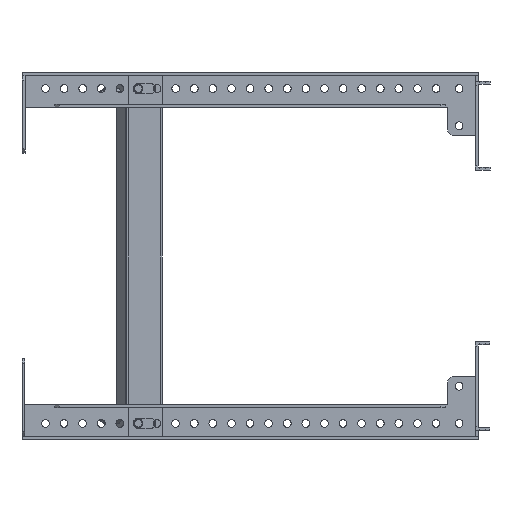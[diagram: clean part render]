
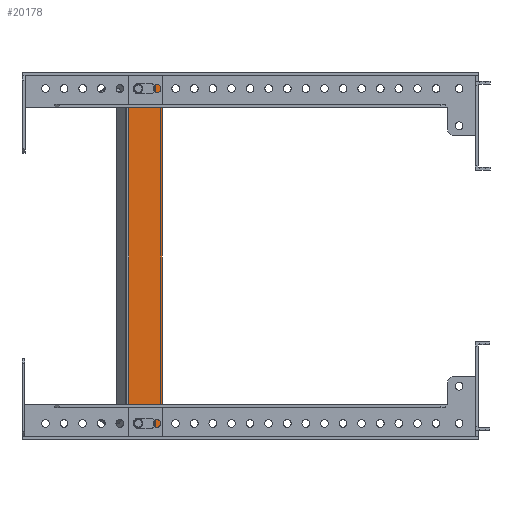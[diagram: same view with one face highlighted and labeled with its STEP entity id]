
A CAD part, front view. The second image highlights one B-rep face of the part: STEP entity #20178.
In plain terms, the highlighted planar face has unit normal (0, -1, 0).
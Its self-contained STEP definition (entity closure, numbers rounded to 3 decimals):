
#55 = VECTOR ( 'NONE', #7152, 1000. ) ;
#489 = PLANE ( 'NONE',  #1280 ) ;
#521 = AXIS2_PLACEMENT_3D ( 'NONE', #22598, #24838, #16937 ) ;
#664 = EDGE_CURVE ( 'NONE', #10660, #7614, #8551, .T. ) ;
#777 = DIRECTION ( 'NONE',  ( 0., 1., 0. ) ) ;
#1086 = EDGE_LOOP ( 'NONE', ( #4444, #16172, #6399, #8748 ) ) ;
#1276 = DIRECTION ( 'NONE',  ( -1., 0., 0. ) ) ;
#1280 = AXIS2_PLACEMENT_3D ( 'NONE', #20697, #2205, #16485 ) ;
#1423 = CARTESIAN_POINT ( 'NONE',  ( 1150.146, -254., -97.5 ) ) ;
#1547 = VECTOR ( 'NONE', #23556, 1000. ) ;
#1991 = VERTEX_POINT ( 'NONE', #14176 ) ;
#2205 = DIRECTION ( 'NONE',  ( 0., 1., 0. ) ) ;
#2324 = AXIS2_PLACEMENT_3D ( 'NONE', #2755, #9111, #10834 ) ;
#2607 = CARTESIAN_POINT ( 'NONE',  ( 1112.302, -254., -84. ) ) ;
#2615 = CARTESIAN_POINT ( 'NONE',  ( 1120.302, -254., -91. ) ) ;
#2673 = ORIENTED_EDGE ( 'NONE', *, *, #7931, .F. ) ;
#2719 = ORIENTED_EDGE ( 'NONE', *, *, #12470, .F. ) ;
#2755 = CARTESIAN_POINT ( 'NONE',  ( 1112.302, -254., -87.5 ) ) ;
#3251 = AXIS2_PLACEMENT_3D ( 'NONE', #7068, #25270, #14858 ) ;
#3827 = CARTESIAN_POINT ( 'NONE',  ( 1105.802, -254., -97.5 ) ) ;
#3917 = VERTEX_POINT ( 'NONE', #9894 ) ;
#4010 = ORIENTED_EDGE ( 'NONE', *, *, #23857, .F. ) ;
#4091 = CIRCLE ( 'NONE', #23485, 3.5 ) ;
#4324 = FACE_BOUND ( 'NONE', #19379, .T. ) ;
#4411 = EDGE_CURVE ( 'NONE', #7143, #7247, #14723, .T. ) ;
#4444 = ORIENTED_EDGE ( 'NONE', *, *, #21073, .F. ) ;
#4454 = DIRECTION ( 'NONE',  ( -1., 0., 0. ) ) ;
#4591 = FACE_BOUND ( 'NONE', #23578, .T. ) ;
#4787 = VERTEX_POINT ( 'NONE', #24359 ) ;
#4815 = ORIENTED_EDGE ( 'NONE', *, *, #25824, .T. ) ;
#5189 = CARTESIAN_POINT ( 'NONE',  ( 1112.302, -254., 141. ) ) ;
#5450 = LINE ( 'NONE', #11400, #10192 ) ;
#5461 = LINE ( 'NONE', #17359, #21093 ) ;
#6399 = ORIENTED_EDGE ( 'NONE', *, *, #13966, .F. ) ;
#7068 = CARTESIAN_POINT ( 'NONE',  ( 1112.302, -254., 137.5 ) ) ;
#7143 = VERTEX_POINT ( 'NONE', #13472 ) ;
#7152 = DIRECTION ( 'NONE',  ( 0., 0., 1. ) ) ;
#7247 = VERTEX_POINT ( 'NONE', #23614 ) ;
#7614 = VERTEX_POINT ( 'NONE', #18050 ) ;
#7931 = EDGE_CURVE ( 'NONE', #3917, #24956, #23165, .T. ) ;
#8551 = CIRCLE ( 'NONE', #521, 3.5 ) ;
#8666 = CARTESIAN_POINT ( 'NONE',  ( 1128.304, -254., 147.5 ) ) ;
#8680 = VECTOR ( 'NONE', #17086, 1000. ) ;
#8748 = ORIENTED_EDGE ( 'NONE', *, *, #10768, .T. ) ;
#9023 = CARTESIAN_POINT ( 'NONE',  ( 1105.802, -254., 147.5 ) ) ;
#9111 = DIRECTION ( 'NONE',  ( 0., -1., 0. ) ) ;
#9200 = EDGE_CURVE ( 'NONE', #7247, #18166, #5461, .T. ) ;
#9828 = CARTESIAN_POINT ( 'NONE',  ( 1112.302, -254., -84. ) ) ;
#9894 = CARTESIAN_POINT ( 'NONE',  ( 1120.302, -254., -84. ) ) ;
#10054 = CARTESIAN_POINT ( 'NONE',  ( 1105.802, -254., 147.5 ) ) ;
#10192 = VECTOR ( 'NONE', #13760, 1000. ) ;
#10660 = VERTEX_POINT ( 'NONE', #16278 ) ;
#10768 = EDGE_CURVE ( 'NONE', #1991, #25295, #18791, .T. ) ;
#10822 = VERTEX_POINT ( 'NONE', #17458 ) ;
#10834 = DIRECTION ( 'NONE',  ( -1., 0., 0. ) ) ;
#11109 = VECTOR ( 'NONE', #4454, 1000. ) ;
#11205 = DIRECTION ( 'NONE',  ( 0., -1., 0. ) ) ;
#11400 = CARTESIAN_POINT ( 'NONE',  ( 1112.302, -254., 134. ) ) ;
#11665 = ORIENTED_EDGE ( 'NONE', *, *, #664, .T. ) ;
#11952 = EDGE_CURVE ( 'NONE', #21084, #14720, #17340, .T. ) ;
#12240 = DIRECTION ( 'NONE',  ( 0., -1., 0. ) ) ;
#12470 = EDGE_CURVE ( 'NONE', #24956, #7143, #22127, .T. ) ;
#12593 = LINE ( 'NONE', #9023, #22817 ) ;
#12711 = CARTESIAN_POINT ( 'NONE',  ( 1105.802, -254., -97.5 ) ) ;
#13133 = AXIS2_PLACEMENT_3D ( 'NONE', #16773, #777, #16899 ) ;
#13472 = CARTESIAN_POINT ( 'NONE',  ( 1108.802, -254., -87.5 ) ) ;
#13760 = DIRECTION ( 'NONE',  ( -1., 0., 0. ) ) ;
#13966 = EDGE_CURVE ( 'NONE', #1991, #21084, #19532, .T. ) ;
#14176 = CARTESIAN_POINT ( 'NONE',  ( 1128.304, -254., -97.5 ) ) ;
#14228 = ORIENTED_EDGE ( 'NONE', *, *, #4411, .F. ) ;
#14720 = VERTEX_POINT ( 'NONE', #10054 ) ;
#14723 = CIRCLE ( 'NONE', #21470, 3.5 ) ;
#14858 = DIRECTION ( 'NONE',  ( -1., 0., 0. ) ) ;
#16172 = ORIENTED_EDGE ( 'NONE', *, *, #11952, .F. ) ;
#16278 = CARTESIAN_POINT ( 'NONE',  ( 1120.302, -254., 141. ) ) ;
#16485 = DIRECTION ( 'NONE',  ( 1., 0., 0. ) ) ;
#16589 = CARTESIAN_POINT ( 'NONE',  ( 1112.302, -254., -87.5 ) ) ;
#16773 = CARTESIAN_POINT ( 'NONE',  ( 1112.302, -254., 137.5 ) ) ;
#16826 = LINE ( 'NONE', #5189, #8680 ) ;
#16899 = DIRECTION ( 'NONE',  ( -1., 0., 0. ) ) ;
#16937 = DIRECTION ( 'NONE',  ( -1., 0., 0. ) ) ;
#17086 = DIRECTION ( 'NONE',  ( 1., 0., 0. ) ) ;
#17340 = LINE ( 'NONE', #3827, #17479 ) ;
#17359 = CARTESIAN_POINT ( 'NONE',  ( 1112.302, -254., -91. ) ) ;
#17458 = CARTESIAN_POINT ( 'NONE',  ( 1108.802, -254., 137.5 ) ) ;
#17479 = VECTOR ( 'NONE', #21418, 1000. ) ;
#17869 = DIRECTION ( 'NONE',  ( 1., 0., 0. ) ) ;
#18050 = CARTESIAN_POINT ( 'NONE',  ( 1120.302, -254., 134. ) ) ;
#18166 = VERTEX_POINT ( 'NONE', #2615 ) ;
#18791 = LINE ( 'NONE', #19051, #55 ) ;
#19051 = CARTESIAN_POINT ( 'NONE',  ( 1128.304, -254., -100.859 ) ) ;
#19379 = EDGE_LOOP ( 'NONE', ( #21435, #20926, #4815, #11665, #19443 ) ) ;
#19443 = ORIENTED_EDGE ( 'NONE', *, *, #21153, .T. ) ;
#19532 = LINE ( 'NONE', #1423, #11109 ) ;
#19783 = EDGE_CURVE ( 'NONE', #10822, #4787, #21142, .T. ) ;
#20135 = VERTEX_POINT ( 'NONE', #23737 ) ;
#20176 = FACE_OUTER_BOUND ( 'NONE', #1086, .T. ) ;
#20178 = ADVANCED_FACE ( 'NONE', ( #20176, #4324, #4591 ), #489, .F. ) ;
#20697 = CARTESIAN_POINT ( 'NONE',  ( 1150.77, -254., 25. ) ) ;
#20926 = ORIENTED_EDGE ( 'NONE', *, *, #19783, .T. ) ;
#21073 = EDGE_CURVE ( 'NONE', #14720, #25295, #12593, .T. ) ;
#21084 = VERTEX_POINT ( 'NONE', #12711 ) ;
#21093 = VECTOR ( 'NONE', #17869, 1000. ) ;
#21142 = CIRCLE ( 'NONE', #13133, 3.5 ) ;
#21153 = EDGE_CURVE ( 'NONE', #7614, #20135, #5450, .T. ) ;
#21418 = DIRECTION ( 'NONE',  ( 0., 0., 1. ) ) ;
#21435 = ORIENTED_EDGE ( 'NONE', *, *, #24218, .T. ) ;
#21470 = AXIS2_PLACEMENT_3D ( 'NONE', #16589, #12240, #22647 ) ;
#22127 = CIRCLE ( 'NONE', #2324, 3.5 ) ;
#22598 = CARTESIAN_POINT ( 'NONE',  ( 1120.302, -254., 137.5 ) ) ;
#22647 = DIRECTION ( 'NONE',  ( -1., 0., 0. ) ) ;
#22737 = DIRECTION ( 'NONE',  ( 1., 0., 0. ) ) ;
#22817 = VECTOR ( 'NONE', #22737, 1000. ) ;
#23014 = ORIENTED_EDGE ( 'NONE', *, *, #9200, .F. ) ;
#23072 = CARTESIAN_POINT ( 'NONE',  ( 1120.302, -254., -87.5 ) ) ;
#23165 = LINE ( 'NONE', #9828, #1547 ) ;
#23485 = AXIS2_PLACEMENT_3D ( 'NONE', #23072, #11205, #1276 ) ;
#23556 = DIRECTION ( 'NONE',  ( -1., 0., 0. ) ) ;
#23578 = EDGE_LOOP ( 'NONE', ( #23014, #14228, #2719, #2673, #4010 ) ) ;
#23614 = CARTESIAN_POINT ( 'NONE',  ( 1112.302, -254., -91. ) ) ;
#23737 = CARTESIAN_POINT ( 'NONE',  ( 1112.302, -254., 134. ) ) ;
#23857 = EDGE_CURVE ( 'NONE', #18166, #3917, #4091, .T. ) ;
#24218 = EDGE_CURVE ( 'NONE', #20135, #10822, #26016, .T. ) ;
#24359 = CARTESIAN_POINT ( 'NONE',  ( 1112.302, -254., 141. ) ) ;
#24838 = DIRECTION ( 'NONE',  ( 0., 1., 0. ) ) ;
#24956 = VERTEX_POINT ( 'NONE', #2607 ) ;
#25270 = DIRECTION ( 'NONE',  ( 0., 1., 0. ) ) ;
#25295 = VERTEX_POINT ( 'NONE', #8666 ) ;
#25824 = EDGE_CURVE ( 'NONE', #4787, #10660, #16826, .T. ) ;
#26016 = CIRCLE ( 'NONE', #3251, 3.5 ) ;
